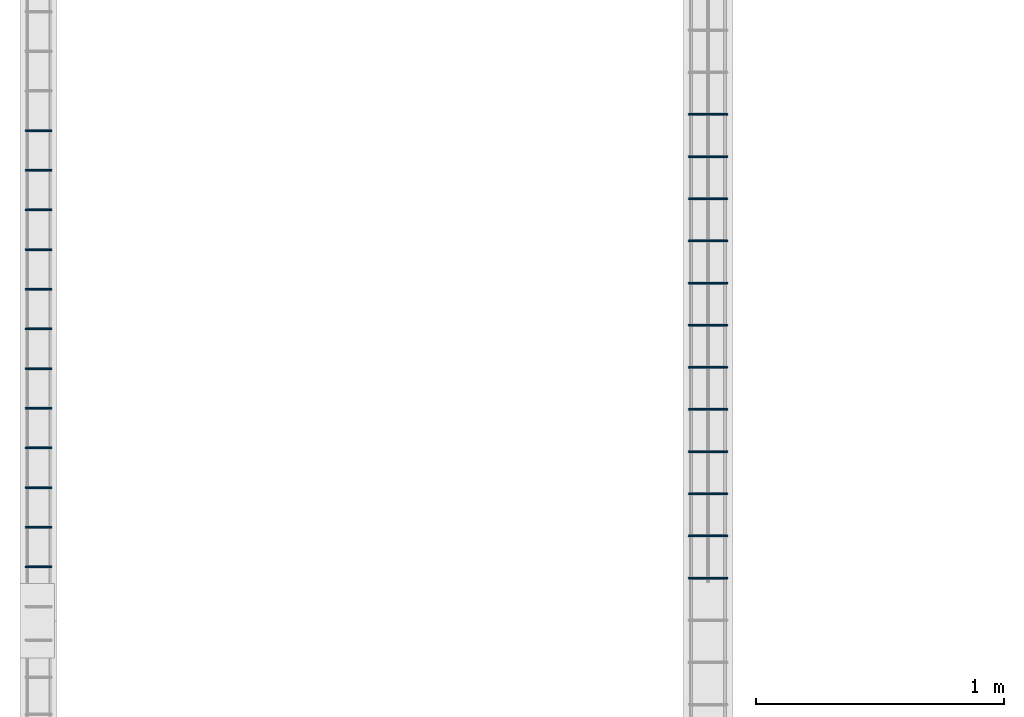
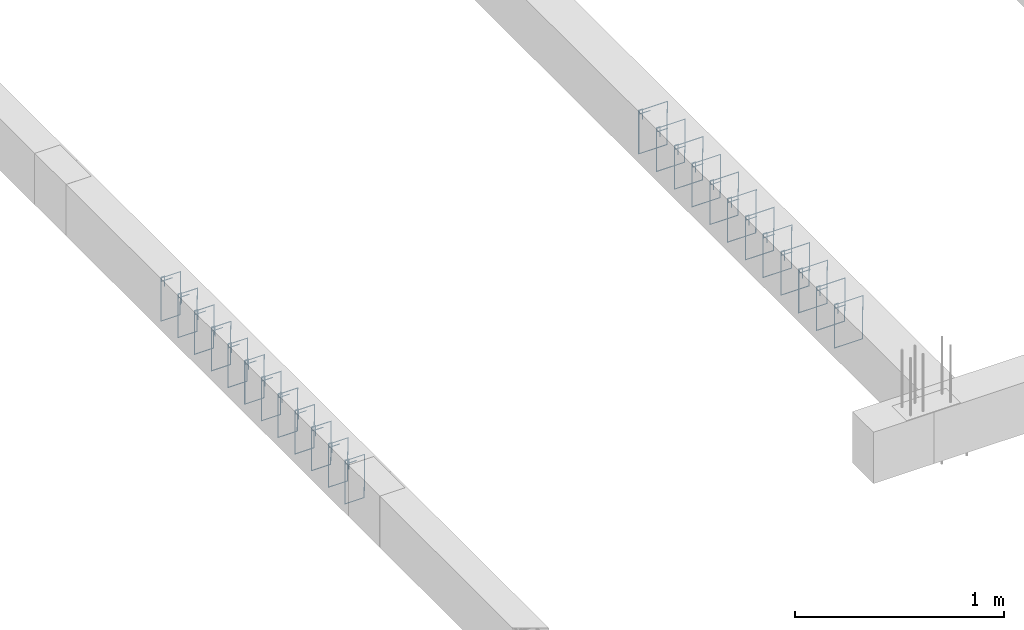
# One storey, part 20 of 150: 24 reinforcing bars.
"""IFC4 building model written with IfcOpenShell, lengths in centimetres."""

from ifc_helpers import new_model, entity, si_unit, derived_unit, frame, origin_with_axes, place, context, project, spatial, source, transform, mapped, element, save


model = new_model("IFC4")

# Units and contexts
model_context = context("Model", 3, precision=1e-05, world=origin_with_axes(), identifier="Body")
ifc_project = project(units=[si_unit("LENGTHUNIT", "METRE", prefix="CENTI"), si_unit("VOLUMEUNIT", "CUBIC_METRE"), si_unit("AREAUNIT", "SQUARE_METRE"), si_unit("POWERUNIT", "WATT"), si_unit("LUMINOUSFLUXUNIT", "LUMEN"), si_unit("ELECTRICCURRENTUNIT", "AMPERE"), si_unit("PRESSUREUNIT", "PASCAL", prefix="KILO"), si_unit("MASSUNIT", "GRAM", prefix="KILO"), si_unit("PLANEANGLEUNIT", "RADIAN"), derived_unit("VOLUMETRICFLOWRATEUNIT", [(si_unit("LENGTHUNIT", "METRE"), 3), (si_unit("TIMEUNIT", "SECOND"), -1)])], contexts=[model_context])

# Site, building, storey
site_placement = place(None, frame((-4000.0, 0.0, 0.0), z_axis=(0.0, 0.0, 1.0), x_axis=(1.0, 0.0, 0.0)))
site = spatial("IfcSite", under=ifc_project, at=site_placement, Name="PADRÃO")
building_placement = place(site_placement, frame((0.0, 0.0, -14.0)))
building = spatial("IfcBuilding", under=site, at=building_placement, Name="CRECHE PRÉ-ESCOLA TIPO 2")
placement = place(building_placement, origin_with_axes())
storey_placement = place(placement, frame((0.0, 0.0, 30.0), z_axis=(0.0, 0.0, 1.0), x_axis=(1.0, 0.0, 0.0)))
storey = spatial("IfcBuildingStorey", under=building, at=storey_placement, Name="VIGA BALDRAME", CompositionType="ELEMENT", Elevation=16.0)

# Reinforcing bars
shared_shape_1 = source(origin_with_axes(), model_context, "Body", "AdvancedSweptSolid", [
    entity("IfcSweptDiskSolid", entity("IfcCompositeCurve", [entity("IfcCompositeCurveSegment", "CONTINUOUS", True, entity("IfcPolyline", [entity("IfcCartesianPoint", [2.0, -6.0, 0.0]), entity("IfcCartesianPoint", [2.0, 0.0, 0.0])])), entity("IfcCompositeCurveSegment", "CONTINUOUS", True, entity("IfcPolyline", [entity("IfcCartesianPoint", [2.0, 0.0, 0.0]), entity("IfcCartesianPoint", [0.0, 0.0, 0.0])])), entity("IfcCompositeCurveSegment", "CONTINUOUS", True, entity("IfcPolyline", [entity("IfcCartesianPoint", [0.0, 0.0, 0.0]), entity("IfcCartesianPoint", [0.0, -25.5, 0.0])])), entity("IfcCompositeCurveSegment", "CONTINUOUS", True, entity("IfcPolyline", [entity("IfcCartesianPoint", [0.0, -25.5, 0.0]), entity("IfcCartesianPoint", [15.5, -25.5, 0.0])])), entity("IfcCompositeCurveSegment", "CONTINUOUS", True, entity("IfcPolyline", [entity("IfcCartesianPoint", [15.5, -25.5, 0.0]), entity("IfcCartesianPoint", [15.5, 0.0, 0.5])])), entity("IfcCompositeCurveSegment", "CONTINUOUS", True, entity("IfcPolyline", [entity("IfcCartesianPoint", [15.5, 0.0, 0.5]), entity("IfcCartesianPoint", [0.0, 0.0, 0.5])])), entity("IfcCompositeCurveSegment", "CONTINUOUS", True, entity("IfcPolyline", [entity("IfcCartesianPoint", [0.0, 0.0, 0.5]), entity("IfcCartesianPoint", [0.0, -2.0, 0.5])])), entity("IfcCompositeCurveSegment", "CONTINUOUS", True, entity("IfcPolyline", [entity("IfcCartesianPoint", [0.0, -2.0, 0.5]), entity("IfcCartesianPoint", [6.0, -2.0, 0.5])]))], False), 0.25),
])
for number, where, z_axis, x_axis, name in (
    (1, (271.25, 612.0, -2.25), (0.0, -1.0, 0.0), (1.0, 0.0, 0.0), "V160 - Estribo"),
    (2, (271.25, 629.0, -2.25), (0.0, -1.0, 0.0), (1.0, 0.0, 0.0), "V160 - Estribo"),
    (3, (271.25, 646.0, -2.25), (0.0, -1.0, 0.0), (1.0, 0.0, 0.0), "V160 - Estribo"),
    (4, (271.25, 663.0, -2.25), (0.0, -1.0, 0.0), (1.0, 0.0, 0.0), "V160 - Estribo"),
    (5, (271.25, 680.0, -2.25), (0.0, -1.0, 0.0), (1.0, 0.0, 0.0), "V160 - Estribo"),
    (6, (271.25, 697.0, -2.25), (0.0, -1.0, 0.0), (1.0, 0.0, 0.0), "V160 - Estribo"),
    (7, (271.25, 714.0, -2.25), (0.0, -1.0, 0.0), (1.0, 0.0, 0.0), "V160 - Estribo"),
    (8, (271.25, 748.0, -2.25), (0.0, -1.0, 0.0), (1.0, 0.0, 0.0), "V160 - Estribo"),
    (9, (271.25, 765.0, -2.25), (0.0, -1.0, 0.0), (1.0, 0.0, 0.0), "V160 - Estribo"),
    (10, (271.25, 782.0, -2.25), (0.0, -1.0, 0.0), (1.0, 0.0, 0.0), "V160 - Estribo"),
    (11, (271.25, 799.0, -2.25), (0.0, -1.0, 0.0), (1.0, 0.0, 0.0), "V160 - Estribo"),
    (12, (271.25, 731.0, -2.25), (0.0, -1.0, 0.0), (1.0, 0.0, 0.0), "V160 - Estribo"),
):
    element("IfcReinforcingBar", number, at=place(storey_placement, frame(where, z_axis=z_axis, x_axis=x_axis)), inside=storey, Name=name, BarLength=0.0, CrossSectionArea=1.9634954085e-05, NominalDiameter=0.5, PredefinedType="MAIN", context=model_context, shape_type="MappedRepresentation", body=[
        mapped(shared_shape_1, transform((0.0, 0.0, 0.0), scale=1.0)),
    ])
shared_shape_2 = source(origin_with_axes(), model_context, "Body", "AdvancedSweptSolid", [
    entity("IfcSweptDiskSolid", entity("IfcCompositeCurve", [entity("IfcCompositeCurveSegment", "CONTINUOUS", True, entity("IfcPolyline", [entity("IfcCartesianPoint", [2.0, -6.0, 0.0]), entity("IfcCartesianPoint", [2.0, 0.0, 0.0])])), entity("IfcCompositeCurveSegment", "CONTINUOUS", True, entity("IfcPolyline", [entity("IfcCartesianPoint", [2.0, 0.0, 0.0]), entity("IfcCartesianPoint", [0.0, 0.0, 0.0])])), entity("IfcCompositeCurveSegment", "CONTINUOUS", True, entity("IfcPolyline", [entity("IfcCartesianPoint", [0.0, 0.0, 0.0]), entity("IfcCartesianPoint", [0.0, -25.5, 0.0])])), entity("IfcCompositeCurveSegment", "CONTINUOUS", True, entity("IfcPolyline", [entity("IfcCartesianPoint", [0.0, -25.5, 0.0]), entity("IfcCartesianPoint", [10.5, -25.5, 0.0])])), entity("IfcCompositeCurveSegment", "CONTINUOUS", True, entity("IfcPolyline", [entity("IfcCartesianPoint", [10.5, -25.5, 0.0]), entity("IfcCartesianPoint", [10.5, 0.0, 0.5])])), entity("IfcCompositeCurveSegment", "CONTINUOUS", True, entity("IfcPolyline", [entity("IfcCartesianPoint", [10.5, 0.0, 0.5]), entity("IfcCartesianPoint", [0.0, 0.0, 0.5])])), entity("IfcCompositeCurveSegment", "CONTINUOUS", True, entity("IfcPolyline", [entity("IfcCartesianPoint", [0.0, 0.0, 0.5]), entity("IfcCartesianPoint", [0.0, -2.0, 0.5])])), entity("IfcCompositeCurveSegment", "CONTINUOUS", True, entity("IfcPolyline", [entity("IfcCartesianPoint", [0.0, -2.0, 0.5]), entity("IfcCartesianPoint", [6.0, -2.0, 0.5])]))], False), 0.25),
])
for number, where, z_axis, x_axis, name in (
    (13, (3.75, 792.5, -2.25), (0.0, -1.0, 0.0), (1.0, 0.0, 0.0), "V159 - Estribo"),
    (14, (3.75, 776.5, -2.25), (0.0, -1.0, 0.0), (1.0, 0.0, 0.0), "V159 - Estribo"),
    (15, (3.75, 760.5, -2.25), (0.0, -1.0, 0.0), (1.0, 0.0, 0.0), "V159 - Estribo"),
    (16, (3.75, 744.5, -2.25), (0.0, -1.0, 0.0), (1.0, 0.0, 0.0), "V159 - Estribo"),
    (17, (3.75, 728.5, -2.25), (0.0, -1.0, 0.0), (1.0, 0.0, 0.0), "V159 - Estribo"),
    (18, (3.75, 712.5, -2.25), (0.0, -1.0, 0.0), (1.0, 0.0, 0.0), "V159 - Estribo"),
    (19, (3.75, 696.5, -2.25), (0.0, -1.0, 0.0), (1.0, 0.0, 0.0), "V159 - Estribo"),
    (20, (3.75, 680.5, -2.25), (0.0, -1.0, 0.0), (1.0, 0.0, 0.0), "V159 - Estribo"),
    (21, (3.75, 664.5, -2.25), (0.0, -1.0, 0.0), (1.0, 0.0, 0.0), "V159 - Estribo"),
    (22, (3.75, 648.5, -2.25), (0.0, -1.0, 0.0), (1.0, 0.0, 0.0), "V159 - Estribo"),
    (23, (3.75, 632.5, -2.25), (0.0, -1.0, 0.0), (1.0, 0.0, 0.0), "V159 - Estribo"),
    (24, (3.75, 616.5, -2.25), (0.0, -1.0, 0.0), (1.0, 0.0, 0.0), "V159 - Estribo"),
):
    element("IfcReinforcingBar", number, at=place(storey_placement, frame(where, z_axis=z_axis, x_axis=x_axis)), inside=storey, Name=name, BarLength=0.0, CrossSectionArea=1.9634954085e-05, NominalDiameter=0.5, PredefinedType="MAIN", context=model_context, shape_type="MappedRepresentation", body=[
        mapped(shared_shape_2, transform((0.0, 0.0, 0.0), scale=1.0)),
    ])

save(model, "model.ifc")
